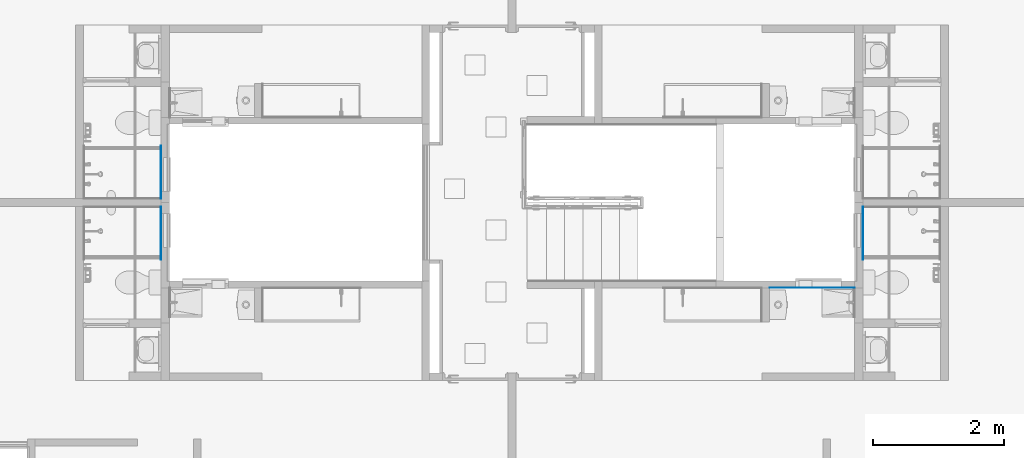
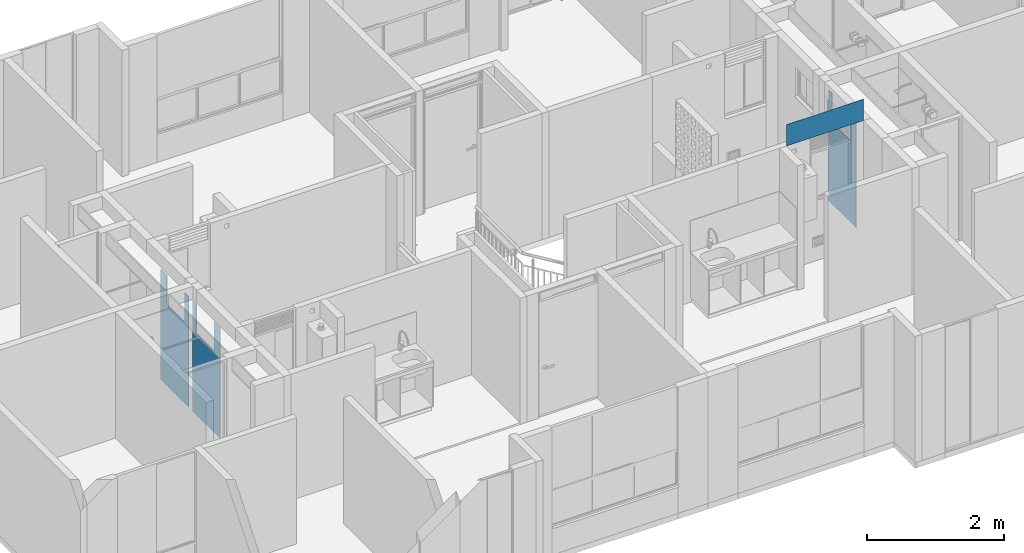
# One storey, part 33 of 47: 4 walls, 3 openings.
"""IFC4 building model written with IfcOpenShell, lengths in metres."""

from ifc_helpers import new_model, entity, si_unit, converted_unit, derived_unit, direction, frame, origin, place, context, subcontext, project, spatial, indexed_curve, outline, extrude, polygons, material, type_object, element, save


model = new_model("IFC4")

# Units and contexts
model_context = context("Model", 3, precision=1e-05, world=origin(), true_north=direction((6.123031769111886e-17, 1.0)))
body_context = subcontext(model_context, "Body", "Model", "MODEL_VIEW")
ifc_project = project(units=[si_unit("LENGTHUNIT", "METRE"), si_unit("AREAUNIT", "SQUARE_METRE"), si_unit("VOLUMEUNIT", "CUBIC_METRE"), converted_unit("PLANEANGLEUNIT", "DEGREE", entity("IfcRatioMeasure", 0.017453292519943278), si_unit("PLANEANGLEUNIT", "RADIAN"), dimensions=[0, 0, 0, 0, 0, 0, 0]), si_unit("MASSUNIT", "GRAM", prefix="KILO"), derived_unit("MASSDENSITYUNIT", [(si_unit("MASSUNIT", "GRAM", prefix="KILO"), 1), (si_unit("LENGTHUNIT", "METRE"), -3)]), derived_unit("IONCONCENTRATIONUNIT", [(si_unit("MASSUNIT", "GRAM", prefix="KILO"), 1), (si_unit("LENGTHUNIT", "METRE"), -3)]), derived_unit("MOMENTOFINERTIAUNIT", [(si_unit("LENGTHUNIT", "METRE"), 4)]), si_unit("TIMEUNIT", "SECOND"), si_unit("FREQUENCYUNIT", "HERTZ"), si_unit("THERMODYNAMICTEMPERATUREUNIT", "DEGREE_CELSIUS"), derived_unit("THERMALTRANSMITTANCEUNIT", [(si_unit("MASSUNIT", "GRAM", prefix="KILO"), 1), (si_unit("THERMODYNAMICTEMPERATUREUNIT", "KELVIN"), -1), (si_unit("TIMEUNIT", "SECOND"), -3)]), derived_unit("THERMALCONDUCTANCEUNIT", [(si_unit("MASSUNIT", "GRAM", prefix="KILO"), 1), (si_unit("THERMODYNAMICTEMPERATUREUNIT", "KELVIN"), -1), (si_unit("TIMEUNIT", "SECOND"), -3), (si_unit("LENGTHUNIT", "METRE"), 1)]), derived_unit("VOLUMETRICFLOWRATEUNIT", [(si_unit("LENGTHUNIT", "METRE"), 3), (si_unit("TIMEUNIT", "SECOND"), -1)]), derived_unit("MASSFLOWRATEUNIT", [(si_unit("MASSUNIT", "GRAM", prefix="KILO"), 1), (si_unit("TIMEUNIT", "SECOND"), -1)]), derived_unit("ROTATIONALFREQUENCYUNIT", [(si_unit("TIMEUNIT", "SECOND"), -1)]), si_unit("ELECTRICCURRENTUNIT", "AMPERE"), si_unit("ELECTRICVOLTAGEUNIT", "VOLT"), si_unit("POWERUNIT", "WATT"), si_unit("FORCEUNIT", "NEWTON", prefix="KILO"), si_unit("ILLUMINANCEUNIT", "LUX"), si_unit("LUMINOUSFLUXUNIT", "LUMEN"), si_unit("LUMINOUSINTENSITYUNIT", "CANDELA"), derived_unit("USERDEFINED", [(si_unit("MASSUNIT", "GRAM", prefix="KILO"), -1), (si_unit("LENGTHUNIT", "METRE"), -2), (si_unit("TIMEUNIT", "SECOND"), 3), (si_unit("LUMINOUSFLUXUNIT", "LUMEN"), 1)]), derived_unit("USERDEFINED", [(si_unit("MASSUNIT", "GRAM", prefix="KILO"), 1), (si_unit("TIMEUNIT", "SECOND"), -3), (si_unit("LENGTHUNIT", "METRE"), 3), (si_unit("ELECTRICCURRENTUNIT", "AMPERE"), -2)]), derived_unit("SOUNDPOWERUNIT", [(si_unit("MASSUNIT", "GRAM", prefix="KILO"), 1), (si_unit("TIMEUNIT", "SECOND"), -3), (si_unit("LENGTHUNIT", "METRE"), 2)]), derived_unit("SOUNDPRESSUREUNIT", [(si_unit("MASSUNIT", "GRAM", prefix="KILO"), 1), (si_unit("LENGTHUNIT", "METRE"), -1), (si_unit("TIMEUNIT", "SECOND"), -2)]), derived_unit("LINEARVELOCITYUNIT", [(si_unit("LENGTHUNIT", "METRE"), 1), (si_unit("TIMEUNIT", "SECOND"), -1)]), si_unit("PRESSUREUNIT", "PASCAL"), derived_unit("USERDEFINED", [(si_unit("MASSUNIT", "GRAM", prefix="KILO"), 1), (si_unit("LENGTHUNIT", "METRE"), -2), (si_unit("TIMEUNIT", "SECOND"), -2)]), derived_unit("LINEARFORCEUNIT", [(si_unit("MASSUNIT", "GRAM", prefix="KILO"), 1), (si_unit("TIMEUNIT", "SECOND"), -2)]), derived_unit("PLANARFORCEUNIT", [(si_unit("MASSUNIT", "GRAM", prefix="KILO"), 1), (si_unit("LENGTHUNIT", "METRE"), -1), (si_unit("TIMEUNIT", "SECOND"), -2)]), derived_unit("SPECIFICHEATCAPACITYUNIT", [(si_unit("THERMODYNAMICTEMPERATUREUNIT", "KELVIN"), -1), (si_unit("LENGTHUNIT", "METRE"), 2), (si_unit("TIMEUNIT", "SECOND"), -2)]), derived_unit("HEATINGVALUEUNIT", [(si_unit("LENGTHUNIT", "METRE"), 2), (si_unit("TIMEUNIT", "SECOND"), -2)]), derived_unit("VAPORPERMEABILITYUNIT", [(si_unit("LENGTHUNIT", "METRE"), -1), (si_unit("TIMEUNIT", "SECOND"), 1)]), derived_unit("DYNAMICVISCOSITYUNIT", [(si_unit("MASSUNIT", "GRAM", prefix="KILO"), 1), (si_unit("TIMEUNIT", "SECOND"), -1), (si_unit("LENGTHUNIT", "METRE"), -1)]), derived_unit("THERMALEXPANSIONCOEFFICIENTUNIT", [(si_unit("THERMODYNAMICTEMPERATUREUNIT", "KELVIN"), -1)]), derived_unit("MODULUSOFELASTICITYUNIT", [(si_unit("MASSUNIT", "GRAM", prefix="KILO"), 1), (si_unit("LENGTHUNIT", "METRE"), -1), (si_unit("TIMEUNIT", "SECOND"), -2)]), derived_unit("ISOTHERMALMOISTURECAPACITYUNIT", [(si_unit("LENGTHUNIT", "METRE"), 3), (si_unit("MASSUNIT", "GRAM", prefix="KILO"), -1)]), derived_unit("MOISTUREDIFFUSIVITYUNIT", [(si_unit("TIMEUNIT", "SECOND"), -1), (si_unit("LENGTHUNIT", "METRE"), 2)])], contexts=[model_context])

# Site, building, storey
site_placement = place(None, origin())
site = spatial("IfcSite", under=ifc_project, at=site_placement, Name="Default", CompositionType="ELEMENT")
building_placement = place(site_placement, origin())
building = spatial("IfcBuilding", under=site, at=building_placement, CompositionType="ELEMENT")
storey_placement = place(building_placement, frame((0.0, 0.0, 11.750000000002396)))
storey = spatial("IfcBuildingStorey", under=building, at=storey_placement, Name="Nivel 6", CompositionType="ELEMENT", Elevation=11.750000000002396)

# Wall, opening
ifc_material_1 = material(Name="Ceramica 0.25m x 0.35m", Category="Materials")
wall_type_1 = type_object("IfcWallType", Name="Basic Wall:C2010 - 0.25 x 0.35 - Enchape cerámico", PredefinedType="STANDARD")
wall_1_placement = place(storey_placement, frame((3.9574999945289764, -6.365000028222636, 0.029999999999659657), z_axis=(0.0, 0.0, 1.0), x_axis=(0.0, 1.0, 0.0)))
wall_1 = element("IfcWall", 1, at=wall_1_placement, inside=storey, type_object=wall_type_1, material=ifc_material_1, Name="Basic Wall:C2010 - 0.25 x 0.35 - Enchape cerámico", ObjectType="Basic Wall:C2010 - 0.25 x 0.35 - Enchape cerámico", PredefinedType="NOTDEFINED", context=body_context, shape_type="Tessellation", body=[
    polygons([(0.0, -0.0049999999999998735, 2.1657342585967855e-15), (0.8099999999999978, -0.00499999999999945, 2.1657342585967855e-15), (0.8099999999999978, -0.00499999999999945, 1.9700000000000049), (0.6309543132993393, -0.00500000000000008, 1.9700000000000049), (0.6309543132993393, -0.00500000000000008, 1.450000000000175), (0.11095431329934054, -0.00499999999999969, 1.450000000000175), (0.11095431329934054, -0.00499999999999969, 1.9700000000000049), (0.0, -0.0049999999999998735, 1.9700000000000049), (0.0, 0.005000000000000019, 2.1657342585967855e-15), (0.0, 0.005000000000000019, 1.9700000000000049), (0.009999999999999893, 0.005000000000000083, 1.9700000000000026), (0.11095431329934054, 0.005000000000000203, 1.9700000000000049), (0.11095431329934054, 0.005000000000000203, 1.450000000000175), (0.6309543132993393, 0.004999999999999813, 1.450000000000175), (0.6309543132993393, 0.004999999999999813, 1.9700000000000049), (0.8099999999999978, 0.004999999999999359, 1.9700000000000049), (0.8099999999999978, 0.004999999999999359, 2.1657342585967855e-15), (0.009999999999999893, 0.005000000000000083, 2.1657342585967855e-15)], [[[1, 2, 3, 4, 5, 6, 7, 8]], [[9, 10, 11, 12, 13, 14, 15, 16, 17, 18]], [[2, 1, 9, 18, 17]], [[3, 2, 17, 16]], [[4, 3, 16, 15]], [[5, 4, 15, 14]], [[6, 5, 14, 13]], [[7, 6, 13, 12]], [[8, 7, 12, 11, 10]], [[1, 8, 10, 9]]], closed=True),
])
opening_1_placement = place(wall_1_placement, origin())
element("IfcOpeningElement", 2, at=opening_1_placement, cuts=wall_1, Name="Basic Wall:C2010 - 0.25 x 0.35 - Enchape cerámico", PredefinedType="OPENING", context=body_context, shape_type="SweptSolid", body=[
    extrude(outline(indexed_curve([(-0.2599999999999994, -0.2599999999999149), (0.2599999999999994, -0.2599999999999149), (0.2599999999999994, 0.2599999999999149), (-0.2599999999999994, 0.2599999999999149), (-0.2599999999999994, -0.2599999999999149)], self_intersect=False)), frame((0.3709543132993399, 0.004999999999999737, 1.7100000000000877), z_axis=(0.0, -1.0, 0.0), x_axis=(-1.0, 0.0, 0.0)), (0.0, 0.0, 1.0), 0.01),
])

wall_2_placement = place(storey_placement, frame((3.957499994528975, -6.485000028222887, 0.029999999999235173), z_axis=(0.0, 0.0, 1.0), x_axis=(0.0, -1.0, 0.0)))
wall_2 = element("IfcWall", 3, at=wall_2_placement, inside=storey, type_object=wall_type_1, material=ifc_material_1, Name="Basic Wall:C2010 - 0.25 x 0.35 - Enchape cerámico", ObjectType="Basic Wall:C2010 - 0.25 x 0.35 - Enchape cerámico", PredefinedType="NOTDEFINED", context=body_context, shape_type="Tessellation", body=[
    polygons([(0.0, -0.0050000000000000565, 2.1657342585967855e-15), (0.009999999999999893, -0.004999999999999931, 2.1657342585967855e-15), (0.8099999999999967, -0.004999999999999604, 2.1657342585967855e-15), (0.8099999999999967, -0.004999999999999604, 1.9700000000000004), (0.6309543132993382, -0.0050000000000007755, 1.9700000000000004), (0.6309543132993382, -0.0050000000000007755, 1.4500000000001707), (0.11095431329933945, -0.0049999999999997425, 1.4500000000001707), (0.11095431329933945, -0.0049999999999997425, 1.9700000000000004), (0.009999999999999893, -0.004999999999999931, 1.9700000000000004), (0.0, -0.0050000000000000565, 1.9700000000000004), (0.0, 0.004999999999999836, 2.1657342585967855e-15), (0.0, 0.004999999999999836, 1.9700000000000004), (0.11095431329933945, 0.00500000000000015, 1.9700000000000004), (0.11095431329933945, 0.00500000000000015, 1.4500000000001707), (0.6309543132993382, 0.0050000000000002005, 1.4500000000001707), (0.6309543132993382, 0.0050000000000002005, 1.9700000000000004), (0.8099999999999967, 0.004999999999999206, 1.9700000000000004), (0.8099999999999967, 0.004999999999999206, 2.1657342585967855e-15)], [[[1, 2, 3, 4, 5, 6, 7, 8, 9, 10]], [[11, 12, 13, 14, 15, 16, 17, 18]], [[3, 2, 1, 11, 18]], [[4, 3, 18, 17]], [[5, 4, 17, 16]], [[6, 5, 16, 15]], [[7, 6, 15, 14]], [[8, 7, 14, 13]], [[10, 9, 8, 13, 12]], [[1, 10, 12, 11]]], closed=True),
])
opening_2_placement = place(wall_2_placement, origin())
element("IfcOpeningElement", 4, at=opening_2_placement, cuts=wall_2, Name="Basic Wall:C2010 - 0.25 x 0.35 - Enchape cerámico", PredefinedType="OPENING", context=body_context, shape_type="SweptSolid", body=[
    extrude(outline(indexed_curve([(-0.26000000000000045, -0.25999999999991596), (0.2599999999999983, -0.25999999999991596), (0.26000000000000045, 0.2599999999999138), (-0.2599999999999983, 0.25999999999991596), (-0.26000000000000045, -0.25999999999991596)], self_intersect=False)), frame((0.3709543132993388, 0.004999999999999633, 1.7100000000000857), z_axis=(0.0, -1.0, 0.0), x_axis=(-1.0, 0.0, 0.0)), (0.0, 0.0, 1.0), 0.01),
])

wall_3_placement = place(storey_placement, frame((14.687500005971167, -6.485000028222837, 0.029999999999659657), z_axis=(0.0, 0.0, 1.0), x_axis=(0.0, -1.0, 0.0)))
wall_3 = element("IfcWall", 5, at=wall_3_placement, inside=storey, type_object=wall_type_1, material=ifc_material_1, Name="Basic Wall:C2010 - 0.25 x 0.35 - Enchape cerámico", ObjectType="Basic Wall:C2010 - 0.25 x 0.35 - Enchape cerámico", PredefinedType="NOTDEFINED", context=body_context, shape_type="Tessellation", body=[
    polygons([(0.0, -0.004999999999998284, 2.1657342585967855e-15), (0.8099999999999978, -0.004999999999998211, 2.1657342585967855e-15), (0.8099999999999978, -0.004999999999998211, 1.9700000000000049), (0.6309543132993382, -0.004999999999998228, 1.9700000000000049), (0.6309543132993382, -0.004999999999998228, 1.4500000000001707), (0.11095431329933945, -0.004999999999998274, 1.4500000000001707), (0.11095431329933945, -0.004999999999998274, 1.9700000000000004), (0.0, -0.004999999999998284, 1.9700000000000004), (0.0, 0.005000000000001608, 2.1657342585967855e-15), (0.0, 0.005000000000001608, 1.9700000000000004), (0.009999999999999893, 0.00500000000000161, 1.9700000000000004), (0.11095431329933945, 0.005000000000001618, 1.9700000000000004), (0.11095431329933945, 0.005000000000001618, 1.4500000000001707), (0.6309543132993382, 0.005000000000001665, 1.4500000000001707), (0.6309543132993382, 0.005000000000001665, 1.9700000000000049), (0.8099999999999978, 0.005000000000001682, 1.9700000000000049), (0.8099999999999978, 0.005000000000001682, 2.1657342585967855e-15), (0.009999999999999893, 0.00500000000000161, 2.1657342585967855e-15)], [[[1, 2, 3, 4, 5, 6, 7, 8]], [[9, 10, 11, 12, 13, 14, 15, 16, 17, 18]], [[2, 1, 9, 18, 17]], [[3, 2, 17, 16]], [[4, 3, 16, 15]], [[5, 4, 15, 14]], [[6, 5, 14, 13]], [[7, 6, 13, 12]], [[8, 7, 12, 11, 10]], [[1, 8, 10, 9]]], closed=True),
])
opening_3_placement = place(wall_3_placement, origin())
element("IfcOpeningElement", 6, at=opening_3_placement, cuts=wall_3, Name="Basic Wall:C2010 - 0.25 x 0.35 - Enchape cerámico", PredefinedType="OPENING", context=body_context, shape_type="SweptSolid", body=[
    extrude(outline(indexed_curve([(-0.26000000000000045, -0.25999999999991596), (0.2599999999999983, -0.25999999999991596), (0.26000000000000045, 0.2599999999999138), (-0.2599999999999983, 0.25999999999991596), (-0.26000000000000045, -0.25999999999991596)], self_intersect=False)), frame((0.3709543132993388, 0.005000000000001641, 1.7100000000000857), z_axis=(0.0, -1.0, 0.0), x_axis=(-1.0, 0.0, 0.0)), (0.0, 0.0, 1.0), 0.01),
])

# Wall
ifc_material_2 = material(Name="Repello y pintura", Category="Materials")
wall_type_2 = type_object("IfcWallType", Name="Basic Wall:C2010 - 0.002m - MI acabado de muro- Estuco+ pintura", PredefinedType="STANDARD")
wall_4_placement = place(storey_placement, frame((13.257500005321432, -7.726500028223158, 2.24999999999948)))
element("IfcWall", 7, at=wall_4_placement, inside=storey, type_object=wall_type_2, material=ifc_material_2, Name="Basic Wall:C2010 - 0.002m - MI acabado de muro- Estuco+ pintura", ObjectType="Basic Wall:C2010 - 0.002m - MI acabado de muro- Estuco+ pintura", PredefinedType="NOTDEFINED", context=body_context, shape_type="Tessellation", body=[
    polygons([(4.013656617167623e-17, -0.0009999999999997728, 0.0), (1.3000000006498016, -0.0009999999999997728, 0.0), (1.3000000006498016, -0.0009999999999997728, 0.38157499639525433), (4.013656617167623e-17, -0.0009999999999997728, 0.3815749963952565), (4.685249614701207e-17, 0.0009999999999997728, 0.0), (4.685249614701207e-17, 0.0009999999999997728, 0.3812749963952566), (1.3000000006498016, 0.0009999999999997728, 0.3812749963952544), (1.3000000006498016, 0.0009999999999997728, 0.0)], [[[1, 2, 3, 4]], [[5, 6, 7, 8]], [[2, 1, 5, 8]], [[4, 3, 7, 6]], [[3, 2, 8, 7]], [[1, 4, 6, 5]]], closed=True),
])

save(model, "model.ifc")
